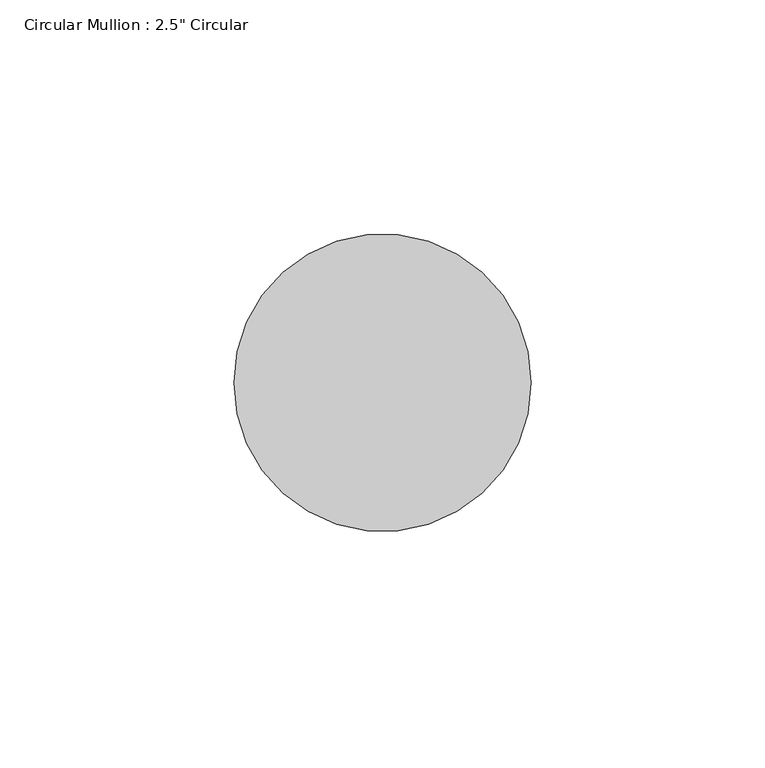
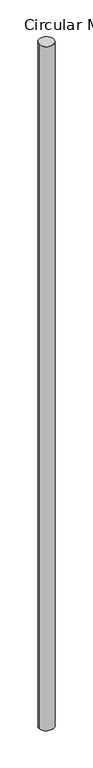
"""IFC4 building model written with IfcOpenShell, lengths in millimetres: member geometry."""

from ifc_helpers import new_model, si_unit, frame, origin, origin_with_axes, place, context, project, spatial, circle_curve, ellipse_curve, source, transform, mapped, element, save
from ifc_brep_helpers import plane_surface, cylinder_surface, advanced_brep


def member_cb3cede5(model_context):
    return source(origin(), model_context, "Body", "AdvancedBrep", [
        advanced_brep(
        [(31.75, 0.0, 0.0), (-31.75, 0.0, 0.0), (31.75, 0.0, -3075.1836048), (-31.75, 0.0, -3075.5081911)],
        [
            (0, 1, circle_curve(origin_with_axes(), 31.75)),
            (1, 0, circle_curve(origin_with_axes(), 31.75)),
            (0, 2),
            (2, 3, ellipse_curve(frame((0.0, 0.0, -3075.3458979), z_axis=(-0.00510506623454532, 0.05027194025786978, 0.9987225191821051), x_axis=(0.1009003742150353, -0.993612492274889, 0.05053048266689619)), 31.7906119, 31.75)),
            (3, 1),
            (3, 2, ellipse_curve(frame((0.0, 0.0, -3075.3458979), z_axis=(-0.00510506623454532, 0.05027194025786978, 0.9987225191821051), x_axis=(0.1009003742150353, -0.993612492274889, 0.05053048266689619)), 31.7906119, 31.75)),
        ],
        [
            plane_surface(frame((0.0, -31.75, 0.0), z_axis=(0.0, 0.0, 1.0), x_axis=(-1.0, 0.0, 0.0))),
            cylinder_surface(origin_with_axes(), 31.75),
            plane_surface(frame((303.2404715, 30.7937725, -3075.3458979), z_axis=(0.00510506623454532, -0.05027194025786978, -0.9987225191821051), x_axis=(0.10090037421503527, -0.9936124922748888, 0.05053048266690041))),
        ],
        [
            (0, [[1, 2]]),
            (1, [[-1, 3, 4, 5]]),
            (1, [[-2, -5, 6, -3]]),
            (2, [[-6, -4]]),
        ],
    ),
    ])


if __name__ == "__main__":
    model = new_model("IFC4")
    model_context = context("Model", 3, world=origin())
    ifc_project = project(units=[si_unit("LENGTHUNIT", "METRE", prefix="MILLI")], contexts=[model_context])
    site = spatial("IfcSite", under=ifc_project)
    building = spatial("IfcBuilding", under=site)
    placement = place(None, origin())
    member_shape = member_cb3cede5(model_context)
    element("IfcMember", 1, ObjectType="Circular Mullion : 2.5\" Circular", at=placement, inside=building, context=model_context, shape_type="MappedRepresentation", body=[
        mapped(member_shape, transform((0.0, 0.0, 0.0), x_axis=(1.0, 0.0, 0.0), y_axis=(0.0, 1.0, 0.0), z_axis=(0.0, 0.0, 1.0))),
    ])
    save(model, "model.ifc")
